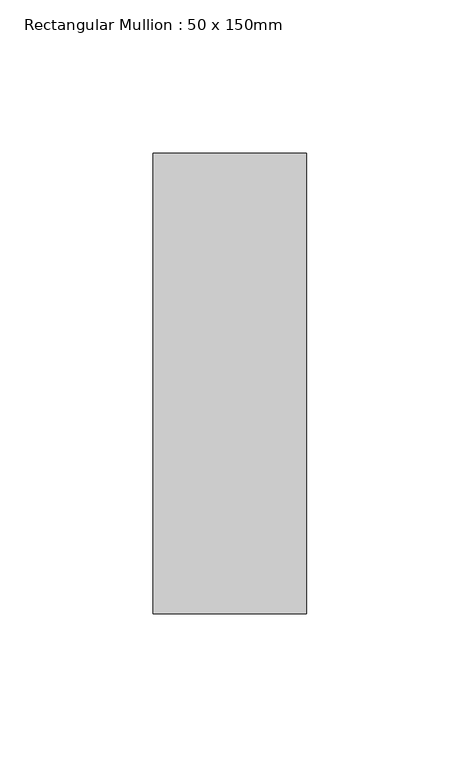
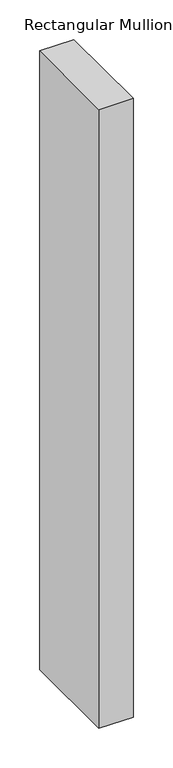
"""IFC4 building model written with IfcOpenShell, lengths in millimetres: member geometry, Rectangular Mullion : 50 x 150mm."""

from ifc_helpers import new_model, si_unit, frame, origin, place, context, project, spatial, polyline, outline, extrude, source, transform, mapped, element, save


def rectangular_mullion_50_x_150mm_de1853b4(model_context):
    return source(origin(), model_context, "Body", "SweptSolid", [
        extrude(outline(polyline([(0.0, 75.0), (0.0, -75.0), (-50.0, -75.0), (-50.0, 75.0), (0.0, 75.0)])), frame((0.0, 0.0, -954.8719395), z_axis=(0.0, 0.0, 1.0), x_axis=(1.0, 0.0, 0.0)), (0.0, 0.0, 1.0), 954.8719395),
    ])


if __name__ == "__main__":
    model = new_model("IFC4")
    model_context = context("Model", 3, world=origin())
    ifc_project = project(units=[si_unit("LENGTHUNIT", "METRE", prefix="MILLI")], contexts=[model_context])
    site = spatial("IfcSite", under=ifc_project)
    building = spatial("IfcBuilding", under=site)
    placement = place(None, origin())
    rectangular_mullion_50_x_150mm_shape = rectangular_mullion_50_x_150mm_de1853b4(model_context)
    element("IfcMember", 1, ObjectType="Rectangular Mullion : 50 x 150mm", at=placement, inside=building, context=model_context, shape_type="MappedRepresentation", body=[
        mapped(rectangular_mullion_50_x_150mm_shape, transform((0.0, 0.0, 0.0), x_axis=(1.0, 0.0, 0.0), y_axis=(0.0, 1.0, 0.0), z_axis=(0.0, 0.0, 1.0))),
    ])
    save(model, "model.ifc")
